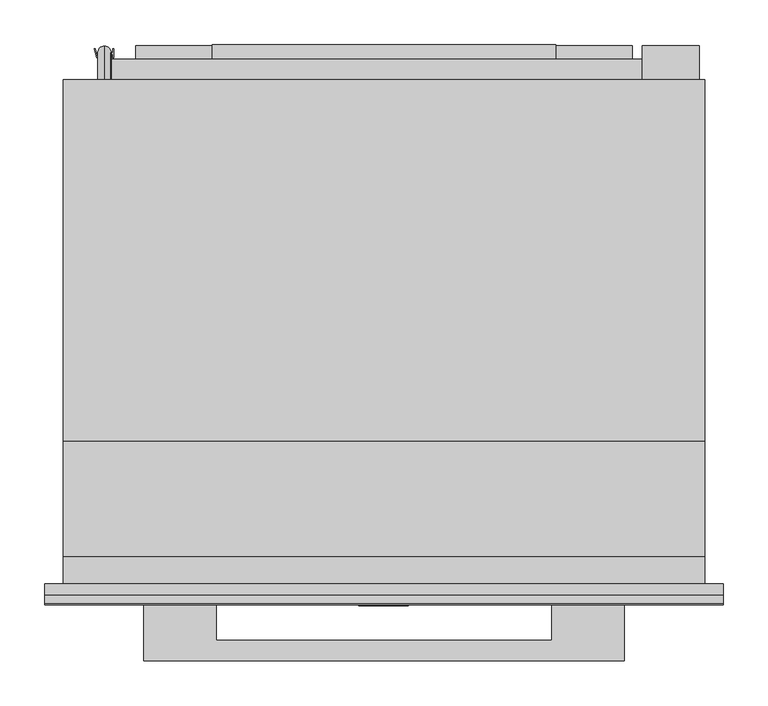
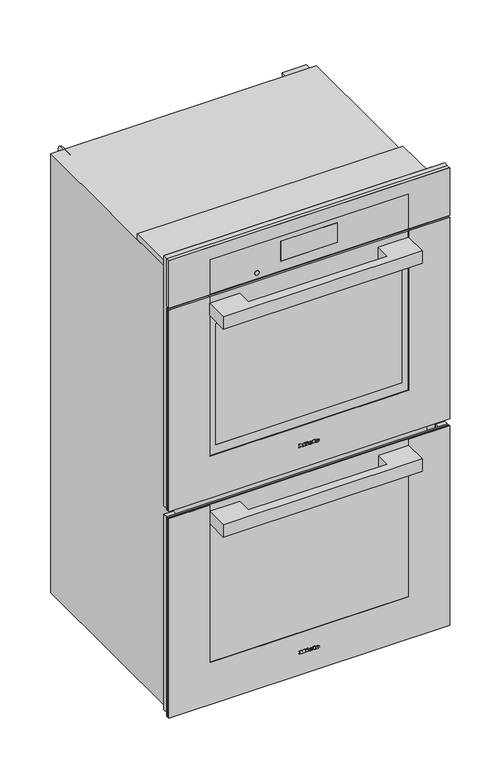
"""IFC4 building model written with IfcOpenShell, lengths in millimetres: proxy geometry, 11805570_USA_H7780BP2_EDST-CLST : 22778047_USA_11805570_H7780BP2_EDST-CLST."""

from ifc_helpers import new_model, si_unit, point, frame, frame_2d, origin, place, context, project, spatial, polyline, circle_curve, ellipse_curve, trimmed, segment, composite_curve, outline, extrude, faceted_brep, source, transform, mapped, element, save
from ifc_brep_helpers import plane_surface, cylinder_surface, revolved_surface, extruded_surface, advanced_brep


def specialty_equipment_2fecc1ba(model_context):
    return source(origin(), model_context, "Body", "SolidModel", [
        advanced_brep(
        [(20.763, -24.3, 655.133), (20.763, -24.3, 656.042), (26.784, -24.3, 656.042), (16.308, -24.3, 656.042), (18.783, -24.3, 653.0), (26.631, -24.3, 655.133), (23.913, -24.3, 655.133), (21.771, -24.3, 654.125), (20.763, -24.3, 657.194), (20.763, -24.3, 658.175), (22.302, -24.3, 658.175), (22.302, -24.3, 657.194), (20.763, -23.3, 655.133), (21.771, -23.3, 654.125), (23.913, -23.3, 655.133), (26.631, -23.3, 655.133), (18.783, -23.3, 653.0), (16.308, -23.3, 656.042), (26.784, -23.3, 656.042), (20.763, -23.3, 656.042), (20.763, -23.3, 657.194), (22.302, -23.3, 657.194), (22.302, -23.3, 658.175), (20.763, -23.3, 658.175)],
        [
            (0, 1),
            (1, 2),
            (2, 3, ellipse_curve(frame((21.546, -24.3, 656.042), z_axis=(0.0, -1.0, 0.0), x_axis=(-1.0, 0.0, 0.0)), 5.238, 4.329)),
            (3, 4, circle_curve(frame((19.7910491, -24.3, 656.348), z_axis=(0.0, -1.0, 0.0), x_axis=(0.0, 0.0, -1.0)), 3.4964649)),
            (4, 5, circle_curve(frame((21.4411428, -24.3, 658.724), z_axis=(0.0, -1.0, 0.0), x_axis=(0.0, 0.0, -1.0)), 6.3110933)),
            (5, 6),
            (6, 7, circle_curve(frame((22.2109412, -24.3, 655.97), z_axis=(0.0, 1.0, 0.0), x_axis=(0.0, 0.0, -1.0)), 1.896727)),
            (7, 0, circle_curve(frame((21.771, -24.3, 655.133), z_axis=(0.0, 1.0, 0.0), x_axis=(0.0, 0.0, -1.0)), 1.008)),
            (8, 9),
            (9, 10, circle_curve(frame((21.5325, -24.3, 658.175), z_axis=(0.0, 1.0, 0.0), x_axis=(0.0, 0.0, -1.0)), 0.7695)),
            (10, 11),
            (11, 8),
            (12, 13, circle_curve(frame((21.771, -23.3, 655.133), z_axis=(0.0, -1.0, 0.0), x_axis=(0.0, 0.0, -1.0)), 1.008)),
            (13, 14, circle_curve(frame((22.2109412, -23.3, 655.97), z_axis=(0.0, -1.0, 0.0), x_axis=(0.0, 0.0, -1.0)), 1.896727)),
            (14, 15),
            (15, 16, circle_curve(frame((21.4411428, -23.3, 658.724), z_axis=(0.0, 1.0, 0.0), x_axis=(0.0, 0.0, -1.0)), 6.3110933)),
            (16, 17, circle_curve(frame((19.7910491, -23.3, 656.348), z_axis=(0.0, 1.0, 0.0), x_axis=(0.0, 0.0, -1.0)), 3.4964649)),
            (17, 18, ellipse_curve(frame((21.546, -23.3, 656.042), z_axis=(0.0, 1.0, 0.0), x_axis=(-1.0, 0.0, 0.0)), 5.238, 4.329)),
            (18, 19),
            (19, 12),
            (20, 21),
            (21, 22),
            (22, 23, circle_curve(frame((21.5325, -23.3, 658.175), z_axis=(0.0, -1.0, 0.0), x_axis=(0.0, 0.0, -1.0)), 0.7695)),
            (23, 20),
            (0, 12),
            (19, 1),
            (18, 2),
            (5, 15),
            (14, 6),
            (17, 3),
            (13, 7),
            (16, 4),
            (8, 20),
            (23, 9),
            (22, 10),
            (21, 11),
        ],
        [
            plane_surface(frame((20.763, -24.3, 656.042), z_axis=(0.0, -1.0, 0.0), x_axis=(0.0, 0.0, 1.0))),
            plane_surface(frame((20.763, -23.3, 656.042), z_axis=(0.0, 1.0, 0.0), x_axis=(0.0, 0.0, -1.0))),
            plane_surface(frame((20.763, -24.3, 655.133), z_axis=(1.0, 0.0, 0.0), x_axis=(0.0, 1.0, 0.0))),
            plane_surface(frame((20.763, -24.3, 656.042), z_axis=(0.0, 0.0, -1.0), x_axis=(0.0, 1.0, 0.0))),
            plane_surface(frame((26.631, -24.3, 655.133), z_axis=(0.0, 0.0, 1.0), x_axis=(0.0, 1.0, 0.0))),
            extruded_surface(trimmed(ellipse_curve(frame((21.546, -22.3, 656.042), z_axis=(0.0, -1.0, 0.0), x_axis=(-1.0, 0.0, 0.0)), 5.238, 4.329), [point((26.784, -22.3, 656.042))], [point((16.308, -22.3, 656.042))], True, "CARTESIAN"), (0.0, -1.0, 0.0), 1.0),
            revolved_surface(polyline([(22.2109412, -23.3, 654.073273), (22.2109412, -24.3, 654.073273)]), (22.2109412, -23.3, 655.97), (0.0, 1.0, 0.0)),
            revolved_surface(polyline([(21.771, -23.3, 654.125), (21.771, -24.3, 654.125)]), (21.771, -23.3, 655.133), (0.0, 1.0, 0.0)),
            cylinder_surface(frame((19.7910491, -23.3, 656.348), z_axis=(0.0, -1.0, 0.0), x_axis=(0.0, 0.0, -1.0)), 3.4964649),
            cylinder_surface(frame((21.4411428, -23.3, 658.724), z_axis=(0.0, -1.0, 0.0), x_axis=(0.0, 0.0, -1.0)), 6.3110933),
            plane_surface(frame((20.763, -24.3, 657.194), z_axis=(1.0, 0.0, 0.0), x_axis=(0.0, 1.0, 0.0))),
            revolved_surface(polyline([(21.5325, -23.3, 657.4055), (21.5325, -24.3, 657.4055)]), (21.5325, -23.3, 658.175), (0.0, 1.0, 0.0)),
            plane_surface(frame((22.302, -24.3, 658.175), z_axis=(-1.0, 0.0, 0.0), x_axis=(0.0, 1.0, 0.0))),
            plane_surface(frame((22.302, -24.3, 657.194), z_axis=(0.0, 0.0, 1.0), x_axis=(0.0, 1.0, 0.0))),
        ],
        [
            (0, [[1, 2, 3, 4, 5, 6, 7, 8], [9, 10, 11, 12]]),
            (1, [[13, 14, 15, 16, 17, 18, 19, 20], [21, 22, 23, 24]]),
            (2, [[-1, 25, -20, 26]]),
            (3, [[-2, -26, -19, 27]]),
            (4, [[-6, 28, -15, 29]]),
            (5, [[-3, -27, -18, 30]]),
            (6, [[-7, -29, -14, 31]]),
            (7, [[-8, -31, -13, -25]]),
            (8, [[-4, -30, -17, 32]]),
            (9, [[-5, -32, -16, -28]]),
            (10, [[-9, 33, -24, 34]]),
            (11, [[-10, -34, -23, 35]]),
            (12, [[-11, -35, -22, 36]]),
            (13, [[-12, -36, -21, -33]]),
        ],
    ),
        advanced_brep(
        [(1.98, -24.3, 655.133), (1.98, -24.3, 656.042), (8.001, -24.3, 656.042), (-2.475, -24.3, 656.042), (0.0, -24.3, 653.0), (7.848, -24.3, 655.133), (5.13, -24.3, 655.133), (2.988, -24.3, 654.125), (1.98, -24.3, 657.194), (1.98, -24.3, 658.175), (3.519, -24.3, 658.175), (3.519, -24.3, 657.194), (1.98, -23.3, 655.133), (2.988, -23.3, 654.125), (5.13, -23.3, 655.133), (7.848, -23.3, 655.133), (0.0, -23.3, 653.0), (-2.475, -23.3, 656.042), (8.001, -23.3, 656.042), (1.98, -23.3, 656.042), (1.98, -23.3, 657.194), (3.519, -23.3, 657.194), (3.519, -23.3, 658.175), (1.98, -23.3, 658.175)],
        [
            (0, 1),
            (1, 2),
            (2, 3, ellipse_curve(frame((2.763, -24.3, 656.042), z_axis=(0.0, -1.0, 0.0), x_axis=(-1.0, 0.0, 0.0)), 5.238, 4.329)),
            (3, 4, circle_curve(frame((1.0080491, -24.3, 656.348), z_axis=(0.0, -1.0, 0.0), x_axis=(0.0, 0.0, -1.0)), 3.4964649)),
            (4, 5, circle_curve(frame((2.6581428, -24.3, 658.724), z_axis=(0.0, -1.0, 0.0), x_axis=(0.0, 0.0, -1.0)), 6.3110933)),
            (5, 6),
            (6, 7, circle_curve(frame((3.4279412, -24.3, 655.97), z_axis=(0.0, 1.0, 0.0), x_axis=(0.0, 0.0, -1.0)), 1.896727)),
            (7, 0, circle_curve(frame((2.988, -24.3, 655.133), z_axis=(0.0, 1.0, 0.0), x_axis=(0.0, 0.0, -1.0)), 1.008)),
            (8, 9),
            (9, 10, circle_curve(frame((2.7495, -24.3, 658.175), z_axis=(0.0, 1.0, 0.0), x_axis=(0.0, 0.0, -1.0)), 0.7695)),
            (10, 11),
            (11, 8),
            (12, 13, circle_curve(frame((2.988, -23.3, 655.133), z_axis=(0.0, -1.0, 0.0), x_axis=(0.0, 0.0, -1.0)), 1.008)),
            (13, 14, circle_curve(frame((3.4279412, -23.3, 655.97), z_axis=(0.0, -1.0, 0.0), x_axis=(0.0, 0.0, -1.0)), 1.896727)),
            (14, 15),
            (15, 16, circle_curve(frame((2.6581428, -23.3, 658.724), z_axis=(0.0, 1.0, 0.0), x_axis=(0.0, 0.0, -1.0)), 6.3110933)),
            (16, 17, circle_curve(frame((1.0080491, -23.3, 656.348), z_axis=(0.0, 1.0, 0.0), x_axis=(0.0, 0.0, -1.0)), 3.4964649)),
            (17, 18, ellipse_curve(frame((2.763, -23.3, 656.042), z_axis=(0.0, 1.0, 0.0), x_axis=(-1.0, 0.0, 0.0)), 5.238, 4.329)),
            (18, 19),
            (19, 12),
            (20, 21),
            (21, 22),
            (22, 23, circle_curve(frame((2.7495, -23.3, 658.175), z_axis=(0.0, -1.0, 0.0), x_axis=(0.0, 0.0, -1.0)), 0.7695)),
            (23, 20),
            (0, 12),
            (19, 1),
            (18, 2),
            (5, 15),
            (14, 6),
            (17, 3),
            (13, 7),
            (16, 4),
            (8, 20),
            (23, 9),
            (22, 10),
            (21, 11),
        ],
        [
            plane_surface(frame((1.98, -24.3, 656.042), z_axis=(0.0, -1.0, 0.0), x_axis=(0.0, 0.0, 1.0))),
            plane_surface(frame((1.98, -23.3, 656.042), z_axis=(0.0, 1.0, 0.0), x_axis=(0.0, 0.0, -1.0))),
            plane_surface(frame((1.98, -24.3, 655.133), z_axis=(1.0, 0.0, 0.0), x_axis=(0.0, 1.0, 0.0))),
            plane_surface(frame((1.98, -24.3, 656.042), z_axis=(0.0, 0.0, -1.0), x_axis=(0.0, 1.0, 0.0))),
            plane_surface(frame((7.848, -24.3, 655.133), z_axis=(0.0, 0.0, 1.0), x_axis=(0.0, 1.0, 0.0))),
            extruded_surface(trimmed(ellipse_curve(frame((2.763, -22.3, 656.042), z_axis=(0.0, -1.0, 0.0), x_axis=(-1.0, 0.0, 0.0)), 5.238, 4.329), [point((8.001, -22.3, 656.042))], [point((-2.475, -22.3, 656.042))], True, "CARTESIAN"), (0.0, -1.0, 0.0), 1.0),
            revolved_surface(polyline([(3.4279412, -23.3, 654.073273), (3.4279412, -24.3, 654.073273)]), (3.4279412, -23.3, 655.97), (0.0, 1.0, 0.0)),
            revolved_surface(polyline([(2.988, -23.3, 654.125), (2.988, -24.3, 654.125)]), (2.988, -23.3, 655.133), (0.0, 1.0, 0.0)),
            cylinder_surface(frame((1.0080491, -23.3, 656.348), z_axis=(0.0, -1.0, 0.0), x_axis=(0.0, 0.0, -1.0)), 3.4964649),
            cylinder_surface(frame((2.6581428, -23.3, 658.724), z_axis=(0.0, -1.0, 0.0), x_axis=(0.0, 0.0, -1.0)), 6.3110933),
            plane_surface(frame((1.98, -24.3, 657.194), z_axis=(1.0, 0.0, 0.0), x_axis=(0.0, 1.0, 0.0))),
            revolved_surface(polyline([(2.7495, -23.3, 657.4055), (2.7495, -24.3, 657.4055)]), (2.7495, -23.3, 658.175), (0.0, 1.0, 0.0)),
            plane_surface(frame((3.519, -24.3, 658.175), z_axis=(-1.0, 0.0, 0.0), x_axis=(0.0, 1.0, 0.0))),
            plane_surface(frame((3.519, -24.3, 657.194), z_axis=(0.0, 0.0, 1.0), x_axis=(0.0, 1.0, 0.0))),
        ],
        [
            (0, [[1, 2, 3, 4, 5, 6, 7, 8], [9, 10, 11, 12]]),
            (1, [[13, 14, 15, 16, 17, 18, 19, 20], [21, 22, 23, 24]]),
            (2, [[-1, 25, -20, 26]]),
            (3, [[-2, -26, -19, 27]]),
            (4, [[-6, 28, -15, 29]]),
            (5, [[-3, -27, -18, 30]]),
            (6, [[-7, -29, -14, 31]]),
            (7, [[-8, -31, -13, -25]]),
            (8, [[-4, -30, -17, 32]]),
            (9, [[-5, -32, -16, -28]]),
            (10, [[-9, 33, -24, 34]]),
            (11, [[-10, -34, -23, 35]]),
            (12, [[-11, -35, -22, 36]]),
            (13, [[-12, -36, -21, -33]]),
        ],
    ),
        extrude(outline(polyline([(661.469, -7.857), (660.011, -7.173), (661.433, -4.122), (662.891, -4.797), (661.469, -7.857)])), frame((0.0, -24.3, 0.0), z_axis=(0.0, 1.0, 0.0), x_axis=(0.0, 0.0, 1.0)), (0.0, 0.0, 1.0), 1.0),
        extrude(outline(polyline([(659.813, -10.08), (658.202, -10.08), (658.202, -9.009), (654.512, -9.009), (654.512, -10.08), (653.0, -10.08), (653.0, -2.979), (654.512, -2.979), (654.512, -4.023), (659.813, -4.023), (659.813, -10.08)])), frame((0.0, -24.3, 0.0), z_axis=(0.0, 1.0, 0.0), x_axis=(0.0, 0.0, 1.0)), (0.0, 0.0, 1.0), 1.0),
        extrude(outline(polyline([(660.533, 8.505), (660.533, 9.585), (654.512, 9.585), (654.512, 8.505), (653.0, 8.505), (653.0, 15.804), (654.512, 15.804), (654.512, 14.697), (662.0, 14.697), (662.0, 8.505), (660.533, 8.505)])), frame((0.0, -24.3, 0.0), z_axis=(0.0, 1.0, 0.0), x_axis=(0.0, 0.0, 1.0)), (0.0, 0.0, 1.0), 1.0),
        extrude(outline(polyline([(660.533, -28.017), (660.533, -26.928), (654.512, -26.928), (654.512, -28.017), (653.0, -28.017), (653.0, -24.057), (654.512, -24.057), (654.512, -25.137), (658.3341247, -25.137), (653.0, -21.114), (658.4402223, -17.073), (654.512, -17.073), (654.512, -18.18), (653.0, -18.18), (653.0, -10.998), (654.512, -10.998), (654.512, -12.141), (660.533, -12.141), (660.533, -10.998), (662.0, -10.998), (662.0, -16.479), (658.625, -19.107), (662.0, -21.744), (662.0, -28.017), (660.533, -28.017)])), frame((0.0, -24.3, 0.0), z_axis=(0.0, 1.0, 0.0), x_axis=(0.0, 0.0, 1.0)), (0.0, 0.0, 1.0), 1.0),
        advanced_brep(
        [(21.28, -24.3, 66.133), (21.28, -24.3, 67.042), (27.301, -24.3, 67.042), (16.825, -24.3, 67.042), (19.3, -24.3, 64.0), (27.148, -24.3, 66.133), (24.43, -24.3, 66.133), (22.288, -24.3, 65.125), (21.28, -24.3, 68.194), (21.28, -24.3, 69.175), (22.819, -24.3, 69.175), (22.819, -24.3, 68.194), (21.28, -23.3, 66.133), (22.288, -23.3, 65.125), (24.43, -23.3, 66.133), (27.148, -23.3, 66.133), (19.3, -23.3, 64.0), (16.825, -23.3, 67.042), (27.301, -23.3, 67.042), (21.28, -23.3, 67.042), (21.28, -23.3, 68.194), (22.819, -23.3, 68.194), (22.819, -23.3, 69.175), (21.28, -23.3, 69.175)],
        [
            (0, 1),
            (1, 2),
            (2, 3, ellipse_curve(frame((22.063, -24.3, 67.042), z_axis=(0.0, -1.0, 0.0), x_axis=(-1.0, 0.0, 0.0)), 5.238, 4.329)),
            (3, 4, circle_curve(frame((20.3080491, -24.3, 67.348), z_axis=(0.0, -1.0, 0.0), x_axis=(0.0, 0.0, -1.0)), 3.4964649)),
            (4, 5, circle_curve(frame((21.9581428, -24.3, 69.724), z_axis=(0.0, -1.0, 0.0), x_axis=(0.0, 0.0, -1.0)), 6.3110933)),
            (5, 6),
            (6, 7, circle_curve(frame((22.7279412, -24.3, 66.97), z_axis=(0.0, 1.0, 0.0), x_axis=(0.0, 0.0, -1.0)), 1.896727)),
            (7, 0, circle_curve(frame((22.288, -24.3, 66.133), z_axis=(0.0, 1.0, 0.0), x_axis=(0.0, 0.0, -1.0)), 1.008)),
            (8, 9),
            (9, 10, circle_curve(frame((22.0495, -24.3, 69.175), z_axis=(0.0, 1.0, 0.0), x_axis=(0.0, 0.0, -1.0)), 0.7695)),
            (10, 11),
            (11, 8),
            (12, 13, circle_curve(frame((22.288, -23.3, 66.133), z_axis=(0.0, -1.0, 0.0), x_axis=(0.0, 0.0, -1.0)), 1.008)),
            (13, 14, circle_curve(frame((22.7279412, -23.3, 66.97), z_axis=(0.0, -1.0, 0.0), x_axis=(0.0, 0.0, -1.0)), 1.896727)),
            (14, 15),
            (15, 16, circle_curve(frame((21.9581428, -23.3, 69.724), z_axis=(0.0, 1.0, 0.0), x_axis=(0.0, 0.0, -1.0)), 6.3110933)),
            (16, 17, circle_curve(frame((20.3080491, -23.3, 67.348), z_axis=(0.0, 1.0, 0.0), x_axis=(0.0, 0.0, -1.0)), 3.4964649)),
            (17, 18, ellipse_curve(frame((22.063, -23.3, 67.042), z_axis=(0.0, 1.0, 0.0), x_axis=(-1.0, 0.0, 0.0)), 5.238, 4.329)),
            (18, 19),
            (19, 12),
            (20, 21),
            (21, 22),
            (22, 23, circle_curve(frame((22.0495, -23.3, 69.175), z_axis=(0.0, -1.0, 0.0), x_axis=(0.0, 0.0, -1.0)), 0.7695)),
            (23, 20),
            (0, 12),
            (19, 1),
            (18, 2),
            (5, 15),
            (14, 6),
            (17, 3),
            (13, 7),
            (16, 4),
            (8, 20),
            (23, 9),
            (22, 10),
            (21, 11),
        ],
        [
            plane_surface(frame((21.28, -24.3, 67.042), z_axis=(0.0, -1.0, 0.0), x_axis=(0.0, 0.0, 1.0))),
            plane_surface(frame((21.28, -23.3, 67.042), z_axis=(0.0, 1.0, 0.0), x_axis=(0.0, 0.0, -1.0))),
            plane_surface(frame((21.28, -24.3, 66.133), z_axis=(1.0, 0.0, 0.0), x_axis=(0.0, 1.0, 0.0))),
            plane_surface(frame((21.28, -24.3, 67.042), z_axis=(0.0, 0.0, -1.0), x_axis=(0.0, 1.0, 0.0))),
            plane_surface(frame((27.148, -24.3, 66.133), z_axis=(0.0, 0.0, 1.0), x_axis=(0.0, 1.0, 0.0))),
            extruded_surface(trimmed(ellipse_curve(frame((22.063, -22.3, 67.042), z_axis=(0.0, -1.0, 0.0), x_axis=(-1.0, 0.0, 0.0)), 5.238, 4.329), [point((27.301, -22.3, 67.042))], [point((16.825, -22.3, 67.042))], True, "CARTESIAN"), (0.0, -1.0, 0.0), 1.0),
            revolved_surface(polyline([(22.7279412, -23.3, 65.073273), (22.7279412, -24.3, 65.073273)]), (22.7279412, -23.3, 66.97), (0.0, 1.0, 0.0)),
            revolved_surface(polyline([(22.288, -23.3, 65.125), (22.288, -24.3, 65.125)]), (22.288, -23.3, 66.133), (0.0, 1.0, 0.0)),
            cylinder_surface(frame((20.3080491, -23.3, 67.348), z_axis=(0.0, -1.0, 0.0), x_axis=(0.0, 0.0, -1.0)), 3.4964649),
            cylinder_surface(frame((21.9581428, -23.3, 69.724), z_axis=(0.0, -1.0, 0.0), x_axis=(0.0, 0.0, -1.0)), 6.3110933),
            plane_surface(frame((21.28, -24.3, 68.194), z_axis=(1.0, 0.0, 0.0), x_axis=(0.0, 1.0, 0.0))),
            revolved_surface(polyline([(22.0495, -23.3, 68.4055), (22.0495, -24.3, 68.4055)]), (22.0495, -23.3, 69.175), (0.0, 1.0, 0.0)),
            plane_surface(frame((22.819, -24.3, 69.175), z_axis=(-1.0, 0.0, 0.0), x_axis=(0.0, 1.0, 0.0))),
            plane_surface(frame((22.819, -24.3, 68.194), z_axis=(0.0, 0.0, 1.0), x_axis=(0.0, 1.0, 0.0))),
        ],
        [
            (0, [[1, 2, 3, 4, 5, 6, 7, 8], [9, 10, 11, 12]]),
            (1, [[13, 14, 15, 16, 17, 18, 19, 20], [21, 22, 23, 24]]),
            (2, [[-1, 25, -20, 26]]),
            (3, [[-2, -26, -19, 27]]),
            (4, [[-6, 28, -15, 29]]),
            (5, [[-3, -27, -18, 30]]),
            (6, [[-7, -29, -14, 31]]),
            (7, [[-8, -31, -13, -25]]),
            (8, [[-4, -30, -17, 32]]),
            (9, [[-5, -32, -16, -28]]),
            (10, [[-9, 33, -24, 34]]),
            (11, [[-10, -34, -23, 35]]),
            (12, [[-11, -35, -22, 36]]),
            (13, [[-12, -36, -21, -33]]),
        ],
    ),
        advanced_brep(
        [(2.497, -24.3, 66.133), (2.497, -24.3, 67.042), (8.518, -24.3, 67.042), (-1.958, -24.3, 67.042), (0.517, -24.3, 64.0), (8.365, -24.3, 66.133), (5.647, -24.3, 66.133), (3.505, -24.3, 65.125), (2.497, -24.3, 68.194), (2.497, -24.3, 69.175), (4.036, -24.3, 69.175), (4.036, -24.3, 68.194), (2.497, -23.3, 66.133), (3.505, -23.3, 65.125), (5.647, -23.3, 66.133), (8.365, -23.3, 66.133), (0.517, -23.3, 64.0), (-1.958, -23.3, 67.042), (8.518, -23.3, 67.042), (2.497, -23.3, 67.042), (2.497, -23.3, 68.194), (4.036, -23.3, 68.194), (4.036, -23.3, 69.175), (2.497, -23.3, 69.175)],
        [
            (0, 1),
            (1, 2),
            (2, 3, ellipse_curve(frame((3.28, -24.3, 67.042), z_axis=(0.0, -1.0, 0.0), x_axis=(-1.0, 0.0, 0.0)), 5.238, 4.329)),
            (3, 4, circle_curve(frame((1.5250491, -24.3, 67.348), z_axis=(0.0, -1.0, 0.0), x_axis=(0.0, 0.0, -1.0)), 3.4964649)),
            (4, 5, circle_curve(frame((3.1751428, -24.3, 69.724), z_axis=(0.0, -1.0, 0.0), x_axis=(0.0, 0.0, -1.0)), 6.3110933)),
            (5, 6),
            (6, 7, circle_curve(frame((3.9449412, -24.3, 66.97), z_axis=(0.0, 1.0, 0.0), x_axis=(0.0, 0.0, -1.0)), 1.896727)),
            (7, 0, circle_curve(frame((3.505, -24.3, 66.133), z_axis=(0.0, 1.0, 0.0), x_axis=(0.0, 0.0, -1.0)), 1.008)),
            (8, 9),
            (9, 10, circle_curve(frame((3.2665, -24.3, 69.175), z_axis=(0.0, 1.0, 0.0), x_axis=(0.0, 0.0, -1.0)), 0.7695)),
            (10, 11),
            (11, 8),
            (12, 13, circle_curve(frame((3.505, -23.3, 66.133), z_axis=(0.0, -1.0, 0.0), x_axis=(0.0, 0.0, -1.0)), 1.008)),
            (13, 14, circle_curve(frame((3.9449412, -23.3, 66.97), z_axis=(0.0, -1.0, 0.0), x_axis=(0.0, 0.0, -1.0)), 1.896727)),
            (14, 15),
            (15, 16, circle_curve(frame((3.1751428, -23.3, 69.724), z_axis=(0.0, 1.0, 0.0), x_axis=(0.0, 0.0, -1.0)), 6.3110933)),
            (16, 17, circle_curve(frame((1.5250491, -23.3, 67.348), z_axis=(0.0, 1.0, 0.0), x_axis=(0.0, 0.0, -1.0)), 3.4964649)),
            (17, 18, ellipse_curve(frame((3.28, -23.3, 67.042), z_axis=(0.0, 1.0, 0.0), x_axis=(-1.0, 0.0, 0.0)), 5.238, 4.329)),
            (18, 19),
            (19, 12),
            (20, 21),
            (21, 22),
            (22, 23, circle_curve(frame((3.2665, -23.3, 69.175), z_axis=(0.0, -1.0, 0.0), x_axis=(0.0, 0.0, -1.0)), 0.7695)),
            (23, 20),
            (0, 12),
            (19, 1),
            (18, 2),
            (5, 15),
            (14, 6),
            (17, 3),
            (13, 7),
            (16, 4),
            (8, 20),
            (23, 9),
            (22, 10),
            (21, 11),
        ],
        [
            plane_surface(frame((2.497, -24.3, 67.042), z_axis=(0.0, -1.0, 0.0), x_axis=(0.0, 0.0, 1.0))),
            plane_surface(frame((2.497, -23.3, 67.042), z_axis=(0.0, 1.0, 0.0), x_axis=(0.0, 0.0, -1.0))),
            plane_surface(frame((2.497, -24.3, 66.133), z_axis=(1.0, 0.0, 0.0), x_axis=(0.0, 1.0, 0.0))),
            plane_surface(frame((2.497, -24.3, 67.042), z_axis=(0.0, 0.0, -1.0), x_axis=(0.0, 1.0, 0.0))),
            plane_surface(frame((8.365, -24.3, 66.133), z_axis=(0.0, 0.0, 1.0), x_axis=(0.0, 1.0, 0.0))),
            extruded_surface(trimmed(ellipse_curve(frame((3.28, -22.3, 67.042), z_axis=(0.0, -1.0, 0.0), x_axis=(-1.0, 0.0, 0.0)), 5.238, 4.329), [point((8.518, -22.3, 67.042))], [point((-1.958, -22.3, 67.042))], True, "CARTESIAN"), (0.0, -1.0, 0.0), 1.0),
            revolved_surface(polyline([(3.9449412, -23.3, 65.073273), (3.9449412, -24.3, 65.073273)]), (3.9449412, -23.3, 66.97), (0.0, 1.0, 0.0)),
            revolved_surface(polyline([(3.505, -23.3, 65.125), (3.505, -24.3, 65.125)]), (3.505, -23.3, 66.133), (0.0, 1.0, 0.0)),
            cylinder_surface(frame((1.5250491, -23.3, 67.348), z_axis=(0.0, -1.0, 0.0), x_axis=(0.0, 0.0, -1.0)), 3.4964649),
            cylinder_surface(frame((3.1751428, -23.3, 69.724), z_axis=(0.0, -1.0, 0.0), x_axis=(0.0, 0.0, -1.0)), 6.3110933),
            plane_surface(frame((2.497, -24.3, 68.194), z_axis=(1.0, 0.0, 0.0), x_axis=(0.0, 1.0, 0.0))),
            revolved_surface(polyline([(3.2665, -23.3, 68.4055), (3.2665, -24.3, 68.4055)]), (3.2665, -23.3, 69.175), (0.0, 1.0, 0.0)),
            plane_surface(frame((4.036, -24.3, 69.175), z_axis=(-1.0, 0.0, 0.0), x_axis=(0.0, 1.0, 0.0))),
            plane_surface(frame((4.036, -24.3, 68.194), z_axis=(0.0, 0.0, 1.0), x_axis=(0.0, 1.0, 0.0))),
        ],
        [
            (0, [[1, 2, 3, 4, 5, 6, 7, 8], [9, 10, 11, 12]]),
            (1, [[13, 14, 15, 16, 17, 18, 19, 20], [21, 22, 23, 24]]),
            (2, [[-1, 25, -20, 26]]),
            (3, [[-2, -26, -19, 27]]),
            (4, [[-6, 28, -15, 29]]),
            (5, [[-3, -27, -18, 30]]),
            (6, [[-7, -29, -14, 31]]),
            (7, [[-8, -31, -13, -25]]),
            (8, [[-4, -30, -17, 32]]),
            (9, [[-5, -32, -16, -28]]),
            (10, [[-9, 33, -24, 34]]),
            (11, [[-10, -34, -23, 35]]),
            (12, [[-11, -35, -22, 36]]),
            (13, [[-12, -36, -21, -33]]),
        ],
    ),
        extrude(outline(polyline([(72.469, -7.34), (71.011, -6.656), (72.433, -3.605), (73.891, -4.28), (72.469, -7.34)])), frame((0.0, -24.3, 0.0), z_axis=(0.0, 1.0, 0.0), x_axis=(0.0, 0.0, 1.0)), (0.0, 0.0, 1.0), 1.0),
        extrude(outline(polyline([(70.813, -9.563), (69.202, -9.563), (69.202, -8.492), (65.512, -8.492), (65.512, -9.563), (64.0, -9.563), (64.0, -2.462), (65.512, -2.462), (65.512, -3.506), (70.813, -3.506), (70.813, -9.563)])), frame((0.0, -24.3, 0.0), z_axis=(0.0, 1.0, 0.0), x_axis=(0.0, 0.0, 1.0)), (0.0, 0.0, 1.0), 1.0),
        extrude(outline(polyline([(71.533, 9.022), (71.533, 10.102), (65.512, 10.102), (65.512, 9.022), (64.0, 9.022), (64.0, 16.321), (65.512, 16.321), (65.512, 15.214), (73.0, 15.214), (73.0, 9.022), (71.533, 9.022)])), frame((0.0, -24.3, 0.0), z_axis=(0.0, 1.0, 0.0), x_axis=(0.0, 0.0, 1.0)), (0.0, 0.0, 1.0), 1.0),
        extrude(outline(polyline([(71.533, -27.5), (71.533, -26.411), (65.512, -26.411), (65.512, -27.5), (64.0, -27.5), (64.0, -23.54), (65.512, -23.54), (65.512, -24.62), (69.3341247, -24.62), (64.0, -20.597), (69.4402223, -16.556), (65.512, -16.556), (65.512, -17.663), (64.0, -17.663), (64.0, -10.481), (65.512, -10.481), (65.512, -11.624), (71.533, -11.624), (71.533, -10.481), (73.0, -10.481), (73.0, -15.962), (69.625, -18.59), (73.0, -21.227), (73.0, -27.5), (71.533, -27.5)])), frame((0.0, -24.3, 0.0), z_axis=(0.0, 1.0, 0.0), x_axis=(0.0, 0.0, 1.0)), (0.0, 0.0, 1.0), 1.0),
        extrude(outline(polyline([(-268.0, -22.0), (-187.0, -22.0), (-187.0, -63.0), (187.0, -63.0), (187.0, -22.0), (268.0, -22.0), (268.0, -86.0), (-268.0, -86.0), (-268.0, -22.0)])), frame((0.0, 0.0, 1113.0), z_axis=(0.0, 0.0, 1.0), x_axis=(1.0, 0.0, 0.0)), (0.0, 0.0, 1.0), 35.0),
        extrude(outline(polyline([(1167.0, -268.0), (1167.0, -378.5), (593.0, -378.5), (593.0, 378.5), (1167.0, 378.5), (1167.0, 268.0), (713.0, 268.0), (713.0, -268.0), (1167.0, -268.0)])), frame((0.0, -23.3, 0.0), z_axis=(0.0, 1.0, 0.0), x_axis=(0.0, 0.0, 1.0)), (0.0, 0.0, 1.0), 1.3),
        extrude(outline(polyline([(-250.5, -18.0), (250.5, -18.0), (250.5, -22.0), (-250.5, -22.0), (-250.5, -18.0)])), frame((0.0, 0.0, 739.0), z_axis=(0.0, 0.0, 1.0), x_axis=(1.0, 0.0, 0.0)), (0.0, 0.0, 1.0), 344.0),
        extrude(outline(polyline([(1167.0, 378.5), (1167.0, -378.5), (593.0, -378.5), (593.0, 378.5), (1167.0, 378.5)]), holes=[polyline([(1083.0, 250.5), (739.0, 250.5), (739.0, -250.5), (1083.0, -250.5), (1083.0, 250.5)])]), frame((0.0, -22.0, 0.0), z_axis=(0.0, 1.0, 0.0), x_axis=(0.0, 0.0, 1.0)), (0.0, 0.0, 1.0), 4.0),
        extrude(outline(polyline([(-378.5, -13.0), (378.5, -13.0), (378.5, -18.0), (-378.5, -18.0), (-378.5, -13.0)])), frame((0.0, 0.0, 593.0), z_axis=(0.0, 0.0, 1.0), x_axis=(1.0, 0.0, 0.0)), (0.0, 0.0, 1.0), 574.0),
        extrude(outline(polyline([(573.0, -268.5), (573.0, -378.5), (4.0, -378.5), (4.0, 378.5), (573.0, 378.5), (573.0, 268.5), (124.0, 268.5), (124.0, -268.5), (573.0, -268.5)])), frame((0.0, -23.3, 0.0), z_axis=(0.0, 1.0, 0.0), x_axis=(0.0, 0.0, 1.0)), (0.0, 0.0, 1.0), 1.3),
        extrude(outline(polyline([(378.5, -22.0), (-378.5, -22.0), (-378.5, -18.0), (378.5, -18.0), (378.5, -22.0)])), frame((0.0, 0.0, 4.0), z_axis=(0.0, 0.0, 1.0), x_axis=(1.0, 0.0, 0.0)), (0.0, 0.0, 1.0), 569.0),
        extrude(outline(polyline([(-187.0, -22.0), (-187.0, -63.0), (187.0, -63.0), (187.0, -22.0), (268.0, -22.0), (268.0, -86.0), (-268.0, -86.0), (-268.0, -22.0), (-187.0, -22.0)])), frame((0.0, 0.0, 520.0), z_axis=(0.0, 0.0, 1.0), x_axis=(1.0, 0.0, 0.0)), (0.0, 0.0, 1.0), 35.0),
        extrude(outline(polyline([(378.5, -18.0), (-378.5, -18.0), (-378.5, -13.0), (378.5, -13.0), (378.5, -18.0)])), frame((0.0, 0.0, 4.0), z_axis=(0.0, 0.0, 1.0), x_axis=(1.0, 0.0, 0.0)), (0.0, 0.0, 1.0), 569.0),
        extrude(outline(polyline([(-250.5, -18.0), (250.5, -18.0), (250.5, -22.0), (-250.5, -22.0), (-250.5, -18.0)])), frame((0.0, 0.0, 150.0), z_axis=(0.0, 0.0, 1.0), x_axis=(1.0, 0.0, 0.0)), (0.0, 0.0, 1.0), 344.0),
        extrude(outline(polyline([(1308.0, -378.5), (1173.0, -378.5), (1173.0, -268.5), (1273.0, -268.5), (1273.0, 268.5), (1173.0, 268.5), (1173.0, 378.5), (1308.0, 378.5), (1308.0, -378.5)])), frame((0.0, -23.3, 0.0), z_axis=(0.0, 1.0, 0.0), x_axis=(0.0, 0.0, 1.0)), (0.0, 0.0, 1.0), 1.3),
        extrude(outline(polyline([(-76.5, -21.0), (76.5, -21.0), (76.5, -22.0), (-76.5, -22.0), (-76.5, -21.0)])), frame((0.0, 0.0, 1201.0), z_axis=(0.0, 0.0, 1.0), x_axis=(1.0, 0.0, 0.0)), (0.0, 0.0, 1.0), 56.0),
        faceted_brep([(378.5, -22.0, 1308.0), (-378.5, -22.0, 1308.0), (-378.5, -22.0, 1173.0), (378.5, -22.0, 1173.0), (76.5, -22.0, 1257.0), (76.5, -22.0, 1201.0), (-76.5, -22.0, 1201.0), (-76.5, -22.0, 1257.0), (378.5, -13.0, 1308.0), (378.5, -13.0, 1173.0), (-378.5, -13.0, 1173.0), (-378.5, -13.0, 1308.0), (76.5, -21.0, 1257.0), (-76.5, -21.0, 1257.0), (-76.5, -21.0, 1201.0), (76.5, -21.0, 1201.0)], [[[0, 1, 2, 3], [4, 5, 6, 7]], [[8, 9, 10, 11]], [[1, 0, 8, 11]], [[2, 1, 11, 10]], [[3, 2, 10, 9]], [[0, 3, 9, 8]], [[12, 13, 14, 15]], [[12, 15, 5, 4]], [[15, 14, 6, 5]], [[14, 13, 7, 6]], [[13, 12, 4, 7]]]),
        extrude(outline(composite_curve([segment(trimmed(circle_curve(frame_2d((1190.0, -140.5745637)), 6.0), [point((1190.0, -146.5745637))], [point((1190.0, -134.5745637))], False, "CARTESIAN"), True, "CONTINUOUS"), segment(trimmed(circle_curve(frame_2d((1190.0, -140.5745637)), 6.0), [point((1190.0, -134.5745637))], [point((1190.0, -146.5745637))], False, "CARTESIAN"), True, "CONTINUOUS")], self_intersect=False)), frame((0.0, -22.5, 0.0), z_axis=(0.0, 1.0, 0.0), x_axis=(0.0, 0.0, 1.0)), (0.0, 0.0, 1.0), 1.0),
        extrude(outline(polyline([(-301.48348, 587.3424705), (-302.7391839, 587.3424705), (-302.7391839, 590.7956561), (-304.4314411, 592.4094318), (-308.267224, 587.3424705), (-309.8025182, 587.3424705), (-305.3217155, 593.258013), (-309.6455552, 597.3881015), (-307.8895318, 597.3881015), (-302.7391839, 592.4707455), (-302.7391839, 597.3881015), (-301.48348, 597.3881015), (-301.48348, 587.3424705)])), frame((0.0, 0.0, 1195.0), z_axis=(0.0, 0.0, 1.0), x_axis=(1.0, 0.0, 0.0)), (0.0, 0.0, 1.0), 1.0),
        extrude(outline(polyline([(-312.5420128, 587.3424705), (-314.0576866, 587.3424705), (-316.2527159, 594.8717887), (-316.630408, 596.1740909), (-316.9664069, 595.0925178), (-319.3748077, 587.3424705), (-320.7163507, 587.3424705), (-323.4582979, 597.3881015), (-322.1633533, 597.3881015), (-320.5593878, 590.7269848), (-320.0835937, 588.7477797), (-319.0069257, 592.4315048), (-317.5599232, 597.3881015), (-315.6935352, 597.3881015), (-313.7020674, 590.5504015), (-313.1772224, 588.7477797), (-312.6867131, 590.785846), (-311.0974628, 597.3881015), (-309.8025182, 597.3881015), (-312.5420128, 587.3424705)])), frame((0.0, 0.0, 1195.0), z_axis=(0.0, 0.0, 1.0), x_axis=(1.0, 0.0, 0.0)), (0.0, 0.0, 1.0), 1.0),
        advanced_brep(
        [(-312.0, 563.0, 1233.5), (-312.0, 563.0, 1218.5), (-312.0, 600.5, 1233.5), (-312.0, 585.5, 1218.5), (-312.0, 600.5, 1196.0), (-312.0, 585.5, 1196.0)],
        [
            (0, 1, circle_curve(frame((-312.0, 563.0, 1226.0), z_axis=(0.0, -1.0, 0.0), x_axis=(0.0, 0.0, -1.0)), 7.5)),
            (1, 0, circle_curve(frame((-312.0, 563.0, 1226.0), z_axis=(0.0, -1.0, 0.0), x_axis=(0.0, 0.0, -1.0)), 7.5)),
            (0, 2),
            (2, 3, ellipse_curve(frame((-312.0, 593.0, 1226.0), z_axis=(0.0, -0.7071067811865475, 0.7071067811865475), x_axis=(0.0, -0.7071067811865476, -0.7071067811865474)), 10.6066017, 7.5)),
            (3, 1),
            (3, 2, ellipse_curve(frame((-312.0, 593.0, 1226.0), z_axis=(0.0, -0.7071067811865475, 0.7071067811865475), x_axis=(0.0, -0.7071067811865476, -0.7071067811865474)), 10.6066017, 7.5)),
            (4, 5, circle_curve(frame((-312.0, 593.0, 1196.0), z_axis=(0.0, 0.0, -1.0), x_axis=(0.0, -1.0, 0.0)), 7.5)),
            (5, 4, circle_curve(frame((-312.0, 593.0, 1196.0), z_axis=(0.0, 0.0, -1.0), x_axis=(0.0, -1.0, 0.0)), 7.5)),
            (2, 4),
            (5, 3),
        ],
        [
            plane_surface(frame((-312.0, 563.0, 1226.0), z_axis=(0.0, -1.0, 0.0), x_axis=(-1.0, 0.0, 0.0))),
            cylinder_surface(frame((-312.0, 563.0, 1226.0), z_axis=(0.0, -1.0, 0.0), x_axis=(0.0, 0.0, -1.0)), 7.5),
            plane_surface(frame((-312.0, 593.0, 1196.0), z_axis=(0.0, 0.0, -1.0), x_axis=(-1.0, 0.0, 0.0))),
            cylinder_surface(frame((-312.0, 593.0, 1226.0), z_axis=(0.0, 0.0, 1.0), x_axis=(0.0, -1.0, 0.0)), 7.5),
        ],
        [
            (0, [[1, 2]]),
            (1, [[-1, 3, 4, 5]]),
            (1, [[-2, -5, 6, -3]]),
            (2, [[7, 8]]),
            (3, [[-4, 9, -8, 10]]),
            (3, [[-6, -10, -7, -9]]),
        ],
    ),
        extrude(outline(polyline([(317.8651211, 578.2697288), (322.8651211, 578.2697288), (322.8651211, 587.0), (324.0918319, 587.0), (324.0918319, 577.0), (317.8651211, 577.0), (317.8651211, 578.2697288)])), frame((0.0, 0.0, 1151.0), z_axis=(0.0, 0.0, 1.0), x_axis=(1.0, 0.0, 0.0)), (0.0, 0.0, 1.0), 1.0),
        extrude(outline(polyline([(326.0, 578.2697288), (332.1421213, 578.2697288), (332.1421213, 581.5856813), (326.4877514, 581.5856813), (326.4877514, 582.8123921), (332.1421213, 582.8123921), (332.1421213, 585.7641648), (326.142739, 585.7641648), (326.142739, 587.0), (333.4071668, 587.0), (333.4071668, 577.0), (326.0, 577.0), (326.0, 578.2697288)])), frame((0.0, 0.0, 1151.0), z_axis=(0.0, 0.0, 1.0), x_axis=(1.0, 0.0, 0.0)), (0.0, 0.0, 1.0), 1.0),
        extrude(outline(composite_curve([segment(trimmed(circle_curve(frame_2d((326.0, 582.0)), 7.5), [point((318.5, 582.0))], [point((333.5, 582.0))], False, "CARTESIAN"), True, "CONTINUOUS"), segment(trimmed(circle_curve(frame_2d((326.0, 582.0)), 7.5), [point((333.5, 582.0))], [point((318.5, 582.0))], False, "CARTESIAN"), True, "CONTINUOUS")], self_intersect=False)), frame((0.0, 0.0, 1152.0), z_axis=(0.0, 0.0, 1.0), x_axis=(1.0, 0.0, 0.0)), (0.0, 0.0, 1.0), 30.0),
        extrude(outline(composite_curve([segment(trimmed(circle_curve(frame_2d((1226.0, -312.0)), 7.5), [point((1226.0, -319.5))], [point((1226.0, -304.5))], False, "CARTESIAN"), True, "CONTINUOUS"), segment(trimmed(circle_curve(frame_2d((1226.0, -312.0)), 7.5), [point((1226.0, -304.5))], [point((1226.0, -319.5))], False, "CARTESIAN"), True, "CONTINUOUS")], self_intersect=False)), frame((0.0, 563.0, 0.0), z_axis=(0.0, 1.0, 0.0), x_axis=(0.0, 0.0, 1.0)), (0.0, 0.0, 1.0), 30.0),
        extrude(outline(polyline([(277.0, 586.0), (-277.0, 586.0), (-277.0, 601.0), (277.0, 601.0), (277.0, 586.0)])), frame((0.0, 0.0, 531.0), z_axis=(0.0, 0.0, 1.0), x_axis=(1.0, 0.0, 0.0)), (0.0, 0.0, 1.0), 154.0),
        extrude(outline(polyline([(352.0, 601.0), (352.0, 563.0), (288.0, 563.0), (288.0, 601.0), (352.0, 601.0)])), frame((0.0, 0.0, 1182.0), z_axis=(0.0, 0.0, 1.0), x_axis=(1.0, 0.0, 0.0)), (0.0, 0.0, 1.0), 51.0),
        extrude(outline(polyline([(191.5, 586.0), (-191.5, 586.0), (-191.5, 602.0), (191.5, 602.0), (191.5, 586.0)])), frame((0.0, 0.0, 810.0), z_axis=(0.0, 0.0, 1.0), x_axis=(1.0, 0.0, 0.0)), (0.0, 0.0, 1.0), 158.0),
        faceted_brep([(-358.0, 0.0, 0.0), (-358.0, 0.0, 1251.0), (-358.0, 563.0, 1251.0), (-358.0, 563.0, 0.0), (358.0, 0.0, 1251.0), (-353.5, 0.0, 0.0), (-353.5, 0.0, 1173.0), (353.5, 0.0, 1173.0), (353.5, 0.0, 0.0), (358.0, 0.0, 0.0), (312.5, 433.0, 81.0), (-312.5, 433.0, 81.0), (-312.5, 38.0, 81.0), (312.5, 38.0, 81.0), (358.0, 563.0, 1251.0), (358.0, 563.0, 0.0), (353.5, 38.0, 0.0), (-353.5, 38.0, 0.0), (-308.0, 563.0, 0.0), (-308.0, 586.0, 0.0), (308.0, 586.0, 0.0), (308.0, 563.0, 0.0), (-308.0, 586.0, 1165.0), (308.0, 586.0, 1165.0), (-312.5, 433.0, 504.0), (312.5, 433.0, 504.0), (312.5, 38.0, 504.0), (-312.5, 38.0, 504.0), (353.5, 38.0, 1173.0), (-353.5, 38.0, 1173.0), (-312.5, 38.0, 1107.0), (312.5, 38.0, 1107.0), (312.5, 38.0, 684.0), (-312.5, 38.0, 684.0), (-312.5, 433.0, 684.0), (-312.5, 433.0, 1107.0), (-308.0, 563.0, 1165.0), (308.0, 563.0, 1165.0), (312.5, 433.0, 1107.0), (312.5, 433.0, 684.0)], [[[0, 1, 2, 3]], [[4, 1, 0, 5, 6, 7, 8, 9]], [[10, 11, 12, 13]], [[1, 4, 14, 2]], [[15, 9, 8, 16, 17, 5, 0, 3, 18, 19, 20, 21]], [[20, 19, 22, 23]], [[4, 9, 15, 14]], [[24, 25, 26, 27]], [[11, 24, 27, 12]], [[25, 10, 13, 26]], [[28, 29, 17, 16], [27, 26, 13, 12], [30, 31, 32, 33]], [[29, 28, 7, 6]], [[17, 29, 6, 5]], [[28, 16, 8, 7]], [[25, 24, 11, 10]], [[34, 35, 30, 33]], [[23, 22, 36, 37]], [[38, 35, 34, 39]], [[35, 38, 31, 30]], [[39, 34, 33, 32]], [[38, 39, 32, 31]], [[21, 37, 36, 18, 3, 2, 14, 15]], [[37, 21, 20, 23]], [[18, 36, 22, 19]]]),
        extrude(outline(polyline([(-191.5, 602.0), (191.5, 602.0), (191.5, 586.0), (-191.5, 586.0), (-191.5, 602.0)])), frame((0.0, 0.0, 203.0), z_axis=(0.0, 0.0, 1.0), x_axis=(1.0, 0.0, 0.0)), (0.0, 0.0, 1.0), 158.0),
        extrude(outline(polyline([(0.0, 1251.0), (0.0, 1285.0), (30.0, 1285.0), (30.0, 1267.0), (159.0, 1267.0), (159.0, 1251.0), (0.0, 1251.0)])), frame((-358.0, 0.0, 0.0), z_axis=(1.0, 0.0, 0.0), x_axis=(0.0, 1.0, 0.0)), (0.0, 0.0, 1.0), 716.0),
        extrude(outline(polyline([(-378.5, -13.0), (-378.5, 0.0), (-353.5, 0.0), (-353.5, -13.0), (-378.5, -13.0)])), frame((0.0, 0.0, 15.0), z_axis=(0.0, 0.0, 1.0), x_axis=(1.0, 0.0, 0.0)), (0.0, 0.0, 1.0), 557.0),
        extrude(outline(polyline([(378.5, 0.0), (378.5, -13.0), (353.5, -13.0), (353.5, 0.0), (378.5, 0.0)])), frame((0.0, 0.0, 15.0), z_axis=(0.0, 0.0, 1.0), x_axis=(1.0, 0.0, 0.0)), (0.0, 0.0, 1.0), 557.0),
        extrude(outline(polyline([(1308.0, 378.5), (1308.0, -378.5), (596.0, -378.5), (596.0, -353.5), (1173.0, -353.5), (1173.0, 353.5), (596.0, 353.5), (596.0, 378.5), (1308.0, 378.5)])), frame((0.0, -13.0, 0.0), z_axis=(0.0, 1.0, 0.0), x_axis=(0.0, 0.0, 1.0)), (0.0, 0.0, 1.0), 13.0),
    ])


if __name__ == "__main__":
    model = new_model("IFC4")
    model_context = context("Model", 3, world=origin())
    ifc_project = project(units=[si_unit("LENGTHUNIT", "METRE", prefix="MILLI")], contexts=[model_context])
    site = spatial("IfcSite", under=ifc_project)
    building = spatial("IfcBuilding", under=site)
    placement = place(None, origin())
    specialty_equipment_shape = specialty_equipment_2fecc1ba(model_context)
    element("IfcBuildingElementProxy", 1, Name="11805570_USA_H7780BP2_EDST-CLST : 22778047_USA_11805570_H7780BP2_EDST-CLST", ObjectType="11805570_USA_H7780BP2_EDST-CLST : 22778047_USA_11805570_H7780BP2_EDST-CLST", at=placement, inside=building, context=model_context, shape_type="MappedRepresentation", body=[
        mapped(specialty_equipment_shape, transform((0.0, 0.0, 0.0), x_axis=(1.0, 0.0, 0.0), y_axis=(0.0, 1.0, 0.0), z_axis=(0.0, 0.0, 1.0))),
    ])
    save(model, "model.ifc")
